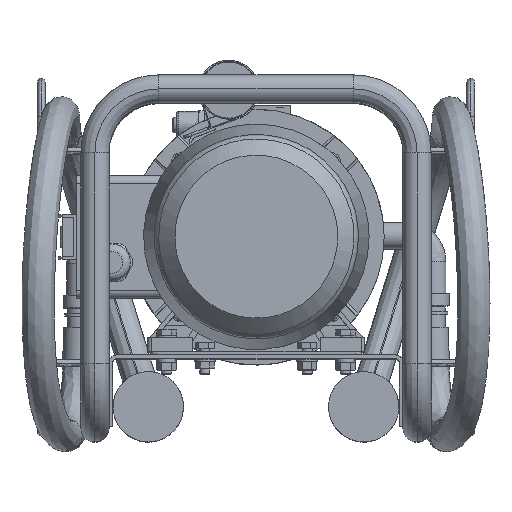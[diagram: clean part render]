
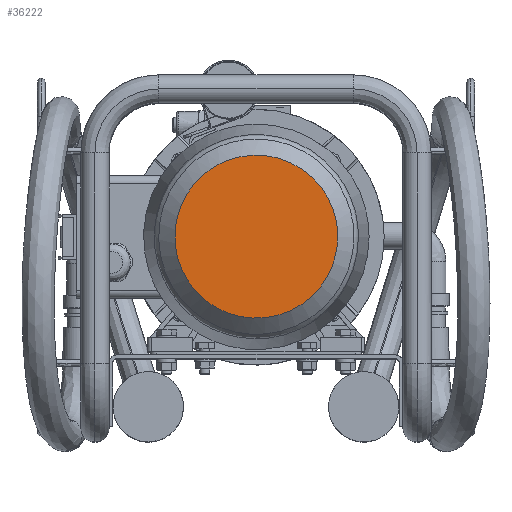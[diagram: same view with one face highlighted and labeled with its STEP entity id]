
A CAD part, top view. The second image highlights one B-rep face of the part: STEP entity #36222.
In plain terms, the highlighted free-form (B-spline) face has degree [1, 1] with [2, 2] control points.
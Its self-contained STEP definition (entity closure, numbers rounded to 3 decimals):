
#36196=CARTESIAN_POINT('F1074',(66.665,
   374.31,266.687));
#36197=CARTESIAN_POINT('F1074',(206.915,
   374.31,266.687));
#36198=CARTESIAN_POINT('F1074',(66.665,
   514.56,266.687));
#36199=CARTESIAN_POINT('F1074',(206.915,
   514.56,266.687));
#36200=QUASI_UNIFORM_SURFACE('F1074',1,1,((#36196,#36198),(#36197,
   #36199)),.PLANE_SURF.,.F.,.F.,.U.);
#36201=CARTESIAN_POINT('V2186',(200.54,
   444.435,266.687));
#36202=VERTEX_POINT('V2186',#36201);
#36203=CARTESIAN_POINT('E3129',(200.54,
   444.435,266.687));
#36204=CARTESIAN_POINT('E3129',(200.54,
   334.017,266.687));
#36205=CARTESIAN_POINT('E3129',(104.915,
   389.226,266.687));
#36206=CARTESIAN_POINT('E3129',(9.29,
   444.435,266.687));
#36207=CARTESIAN_POINT('E3129',(104.915,
   499.644,266.687));
#36208=CARTESIAN_POINT('E3129',(200.54,
   554.853,266.687));
#36209=CARTESIAN_POINT('E3129',(200.54,
   444.435,266.687));
#36217=(BOUNDED_CURVE()B_SPLINE_CURVE(2,(#36203,#36204,#36205,
   #36206,#36207,#36208,#36209),.CIRCULAR_ARC.,.T.,.U.)
   B_SPLINE_CURVE_WITH_KNOTS((3,2,2,3),(0.0,55.209,
   110.418,165.627),.UNSPECIFIED.)CURVE()
   GEOMETRIC_REPRESENTATION_ITEM()RATIONAL_B_SPLINE_CURVE((1.0,
   0.5,1.0,0.5,1.0,0.5,1.0)
   )REPRESENTATION_ITEM('E3129'));
#36218=EDGE_CURVE('E3129',#36202,#36202,#36217,.T.);
#36219=ORIENTED_EDGE('E3129',*,*,#36218,.F.);
#36220=EDGE_LOOP('F1074',(#36219));
#36221=FACE_OUTER_BOUND('F1074',#36220,.T.);
#36222=ADVANCED_FACE('F1074',(#36221),#36200,.T.);
